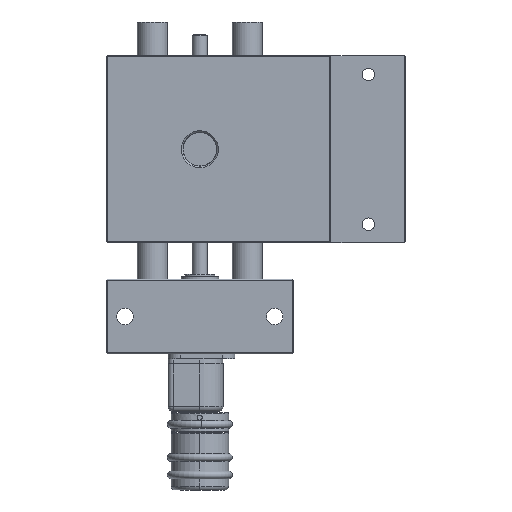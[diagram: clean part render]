
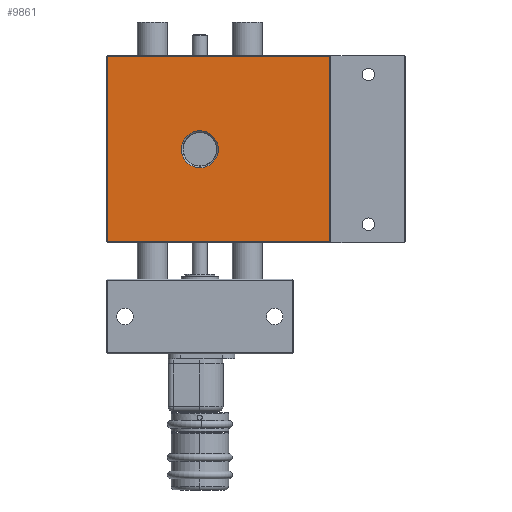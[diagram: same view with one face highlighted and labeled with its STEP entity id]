
A CAD part, front view. The second image highlights one B-rep face of the part: STEP entity #9861.
In plain terms, the highlighted planar face has unit normal (0, -1, 0) as drawn and (0, 1, 0) by its records, which use the part's own axes.
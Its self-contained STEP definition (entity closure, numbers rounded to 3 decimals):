
#725 = LINE ( 'NONE', #827, #3209 ) ;
#814 = VERTEX_POINT ( 'NONE', #11967 ) ;
#827 = CARTESIAN_POINT ( 'NONE',  ( -37.1, 10., 37.5 ) ) ;
#872 = VERTEX_POINT ( 'NONE', #3320 ) ;
#1413 = AXIS2_PLACEMENT_3D ( 'NONE', #5445, #12587, #6479 ) ;
#1616 = LINE ( 'NONE', #11001, #12373 ) ;
#2049 = PLANE ( 'NONE',  #3711 ) ;
#2218 = EDGE_LOOP ( 'NONE', ( #7185, #9754, #6397, #8805 ) ) ;
#2404 = AXIS2_PLACEMENT_3D ( 'NONE', #9816, #3535, #10856 ) ;
#2573 = LINE ( 'NONE', #7327, #8497 ) ;
#2934 = CIRCLE ( 'NONE', #2404, 7.4 ) ;
#3183 = LINE ( 'NONE', #3678, #8153 ) ;
#3209 = VECTOR ( 'NONE', #13264, 1000. ) ;
#3320 = CARTESIAN_POINT ( 'NONE',  ( -37.1, 10., -37.1 ) ) ;
#3382 = ORIENTED_EDGE ( 'NONE', *, *, #13060, .T. ) ;
#3535 = DIRECTION ( 'NONE',  ( 0., -1., 0. ) ) ;
#3678 = CARTESIAN_POINT ( 'NONE',  ( 52.1, 10., -37.5 ) ) ;
#3711 = AXIS2_PLACEMENT_3D ( 'NONE', #13422, #4210, #11475 ) ;
#3743 = CARTESIAN_POINT ( 'NONE',  ( 52.1, 10., -37.1 ) ) ;
#3810 = VERTEX_POINT ( 'NONE', #12430 ) ;
#3949 = CARTESIAN_POINT ( 'NONE',  ( 52.1, 10., 37.1 ) ) ;
#4210 = DIRECTION ( 'NONE',  ( 0., 1., 0. ) ) ;
#4298 = VERTEX_POINT ( 'NONE', #10353 ) ;
#4362 = EDGE_CURVE ( 'NONE', #4298, #9669, #2573, .T. ) ;
#5445 = CARTESIAN_POINT ( 'NONE',  ( 0., 10., 0. ) ) ;
#5725 = EDGE_CURVE ( 'NONE', #9669, #10104, #3183, .T. ) ;
#6397 = ORIENTED_EDGE ( 'NONE', *, *, #5725, .T. ) ;
#6412 = EDGE_CURVE ( 'NONE', #10104, #872, #1616, .T. ) ;
#6479 = DIRECTION ( 'NONE',  ( 1., 0., 0. ) ) ;
#6898 = DIRECTION ( 'NONE',  ( -1., 0., 0. ) ) ;
#7185 = ORIENTED_EDGE ( 'NONE', *, *, #9088, .T. ) ;
#7327 = CARTESIAN_POINT ( 'NONE',  ( 52.5, 10., 37.1 ) ) ;
#7510 = DIRECTION ( 'NONE',  ( 1., 0., 0. ) ) ;
#8153 = VECTOR ( 'NONE', #9941, 1000. ) ;
#8497 = VECTOR ( 'NONE', #7510, 1000. ) ;
#8805 = ORIENTED_EDGE ( 'NONE', *, *, #6412, .T. ) ;
#9088 = EDGE_CURVE ( 'NONE', #872, #4298, #725, .T. ) ;
#9160 = EDGE_LOOP ( 'NONE', ( #3382, #10269 ) ) ;
#9669 = VERTEX_POINT ( 'NONE', #3949 ) ;
#9754 = ORIENTED_EDGE ( 'NONE', *, *, #4362, .T. ) ;
#9816 = CARTESIAN_POINT ( 'NONE',  ( 0., 10., 0. ) ) ;
#9861 = ADVANCED_FACE ( 'NONE', ( #12777, #13088 ), #2049, .T. ) ;
#9941 = DIRECTION ( 'NONE',  ( 0., 0., -1. ) ) ;
#10104 = VERTEX_POINT ( 'NONE', #3743 ) ;
#10269 = ORIENTED_EDGE ( 'NONE', *, *, #13433, .T. ) ;
#10353 = CARTESIAN_POINT ( 'NONE',  ( -37.1, 10., 37.1 ) ) ;
#10856 = DIRECTION ( 'NONE',  ( 1., 0., 0. ) ) ;
#11001 = CARTESIAN_POINT ( 'NONE',  ( -37.5, 10., -37.1 ) ) ;
#11475 = DIRECTION ( 'NONE',  ( 1., 0., 0. ) ) ;
#11967 = CARTESIAN_POINT ( 'NONE',  ( 7.4, 10., 0. ) ) ;
#12373 = VECTOR ( 'NONE', #6898, 1000. ) ;
#12430 = CARTESIAN_POINT ( 'NONE',  ( -7.4, 10., 0. ) ) ;
#12489 = CIRCLE ( 'NONE', #1413, 7.4 ) ;
#12587 = DIRECTION ( 'NONE',  ( 0., -1., 0. ) ) ;
#12777 = FACE_BOUND ( 'NONE', #9160, .T. ) ;
#13060 = EDGE_CURVE ( 'NONE', #814, #3810, #2934, .T. ) ;
#13088 = FACE_OUTER_BOUND ( 'NONE', #2218, .T. ) ;
#13264 = DIRECTION ( 'NONE',  ( 0., 0., 1. ) ) ;
#13422 = CARTESIAN_POINT ( 'NONE',  ( -37.5, 10., -37.5 ) ) ;
#13433 = EDGE_CURVE ( 'NONE', #3810, #814, #12489, .T. ) ;
